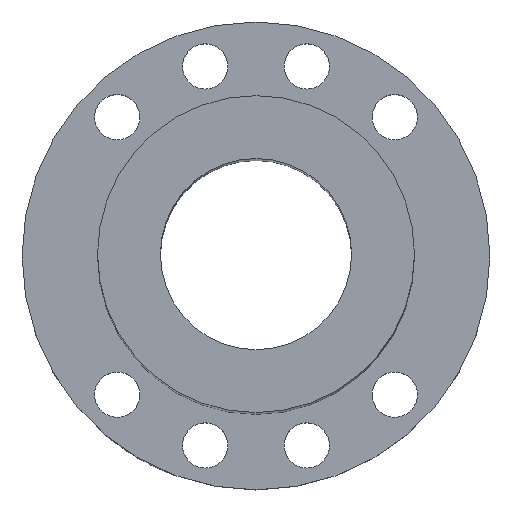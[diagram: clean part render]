
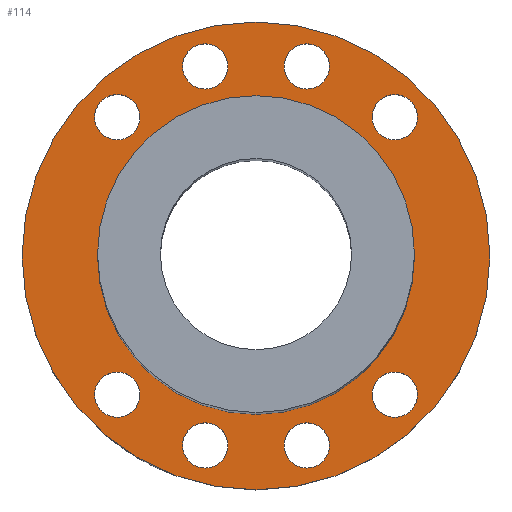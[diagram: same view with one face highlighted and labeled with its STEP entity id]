
A CAD part, top view. The second image highlights one B-rep face of the part: STEP entity #114.
In plain terms, the highlighted planar face has unit normal (0, 0, 1).
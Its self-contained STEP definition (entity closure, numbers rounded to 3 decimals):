
#99=PLANE('',#401);
#114=ADVANCED_FACE('',(#169,#170,#171,#172,#173,#174,#175,#176,#177,#178),
#99,.T.);
#169=FACE_BOUND('',#221,.T.);
#170=FACE_BOUND('',#222,.T.);
#171=FACE_BOUND('',#223,.T.);
#172=FACE_BOUND('',#224,.T.);
#173=FACE_BOUND('',#225,.T.);
#174=FACE_BOUND('',#226,.T.);
#175=FACE_BOUND('',#227,.T.);
#176=FACE_BOUND('',#228,.T.);
#177=FACE_BOUND('',#229,.T.);
#178=FACE_BOUND('',#230,.T.);
#221=EDGE_LOOP('',(#273));
#222=EDGE_LOOP('',(#274));
#223=EDGE_LOOP('',(#275));
#224=EDGE_LOOP('',(#276));
#225=EDGE_LOOP('',(#277));
#226=EDGE_LOOP('',(#278));
#227=EDGE_LOOP('',(#279));
#228=EDGE_LOOP('',(#280));
#229=EDGE_LOOP('',(#281));
#230=EDGE_LOOP('',(#282));
#273=ORIENTED_EDGE('',*,*,#316,.T.);
#274=ORIENTED_EDGE('',*,*,#337,.F.);
#275=ORIENTED_EDGE('',*,*,#336,.T.);
#276=ORIENTED_EDGE('',*,*,#335,.F.);
#277=ORIENTED_EDGE('',*,*,#318,.T.);
#278=ORIENTED_EDGE('',*,*,#334,.T.);
#279=ORIENTED_EDGE('',*,*,#333,.F.);
#280=ORIENTED_EDGE('',*,*,#332,.F.);
#281=ORIENTED_EDGE('',*,*,#331,.T.);
#282=ORIENTED_EDGE('',*,*,#338,.T.);
#290=VERTEX_POINT('',#495);
#292=VERTEX_POINT('',#557);
#305=VERTEX_POINT('',#644);
#306=VERTEX_POINT('',#647);
#307=VERTEX_POINT('',#650);
#308=VERTEX_POINT('',#653);
#309=VERTEX_POINT('',#656);
#310=VERTEX_POINT('',#659);
#311=VERTEX_POINT('',#662);
#312=VERTEX_POINT('',#665);
#316=EDGE_CURVE('',#290,#290,#342,.T.);
#318=EDGE_CURVE('',#292,#292,#343,.T.);
#331=EDGE_CURVE('',#305,#305,#355,.T.);
#332=EDGE_CURVE('',#306,#306,#356,.T.);
#333=EDGE_CURVE('',#307,#307,#357,.T.);
#334=EDGE_CURVE('',#308,#308,#358,.T.);
#335=EDGE_CURVE('',#309,#309,#359,.T.);
#336=EDGE_CURVE('',#310,#310,#360,.T.);
#337=EDGE_CURVE('',#311,#311,#361,.T.);
#338=EDGE_CURVE('',#312,#312,#362,.T.);
#342=CIRCLE('',#367,46.5);
#343=CIRCLE('',#369,31.5);
#355=CIRCLE('',#385,4.5);
#356=CIRCLE('',#387,4.5);
#357=CIRCLE('',#389,4.5);
#358=CIRCLE('',#391,4.5);
#359=CIRCLE('',#393,4.5);
#360=CIRCLE('',#395,4.5);
#361=CIRCLE('',#397,4.5);
#362=CIRCLE('',#399,4.5);
#367=AXIS2_PLACEMENT_3D('',#494,#411,#412);
#369=AXIS2_PLACEMENT_3D('',#556,#415,#416);
#385=AXIS2_PLACEMENT_3D('',#643,#447,#448);
#387=AXIS2_PLACEMENT_3D('',#646,#451,#452);
#389=AXIS2_PLACEMENT_3D('',#649,#455,#456);
#391=AXIS2_PLACEMENT_3D('',#652,#459,#460);
#393=AXIS2_PLACEMENT_3D('',#655,#463,#464);
#395=AXIS2_PLACEMENT_3D('',#658,#467,#468);
#397=AXIS2_PLACEMENT_3D('',#661,#471,#472);
#399=AXIS2_PLACEMENT_3D('',#664,#475,#476);
#401=AXIS2_PLACEMENT_3D('',#667,#479,#480);
#411=DIRECTION('',(0.,0.,1.));
#412=DIRECTION('',(1.,0.,0.));
#415=DIRECTION('',(0.,0.,-1.));
#416=DIRECTION('',(1.,0.,0.));
#447=DIRECTION('',(0.,0.,-1.));
#448=DIRECTION('',(-1.,0.,0.));
#451=DIRECTION('',(0.,0.,1.));
#452=DIRECTION('',(-1.,0.,0.));
#455=DIRECTION('',(0.,0.,1.));
#456=DIRECTION('',(1.,0.,0.));
#459=DIRECTION('',(0.,0.,-1.));
#460=DIRECTION('',(-1.,0.,0.));
#463=DIRECTION('',(0.,0.,1.));
#464=DIRECTION('',(-1.,0.,0.));
#467=DIRECTION('',(0.,0.,-1.));
#468=DIRECTION('',(1.,0.,0.));
#471=DIRECTION('',(0.,0.,1.));
#472=DIRECTION('',(1.,0.,0.));
#475=DIRECTION('',(0.,0.,-1.));
#476=DIRECTION('',(1.,0.,0.));
#479=DIRECTION('',(0.,0.,1.));
#480=DIRECTION('',(1.,0.,0.));
#494=CARTESIAN_POINT('',(0.,0.,14.));
#495=CARTESIAN_POINT('',(46.5,0.,14.));
#556=CARTESIAN_POINT('',(0.,0.,14.));
#557=CARTESIAN_POINT('',(31.5,0.,14.));
#643=CARTESIAN_POINT('',(27.577,27.577,14.));
#644=CARTESIAN_POINT('',(23.077,27.577,14.));
#646=CARTESIAN_POINT('',(27.577,-27.577,14.));
#647=CARTESIAN_POINT('',(23.077,-27.577,14.));
#649=CARTESIAN_POINT('',(-10.094,37.671,14.));
#650=CARTESIAN_POINT('',(-5.594,37.671,14.));
#652=CARTESIAN_POINT('',(10.094,37.671,14.));
#653=CARTESIAN_POINT('',(5.594,37.671,14.));
#655=CARTESIAN_POINT('',(10.094,-37.671,14.));
#656=CARTESIAN_POINT('',(5.594,-37.671,14.));
#658=CARTESIAN_POINT('',(-10.094,-37.671,14.));
#659=CARTESIAN_POINT('',(-5.594,-37.671,14.));
#661=CARTESIAN_POINT('',(-27.577,27.577,14.));
#662=CARTESIAN_POINT('',(-23.077,27.577,14.));
#664=CARTESIAN_POINT('',(-27.577,-27.577,14.));
#665=CARTESIAN_POINT('',(-23.077,-27.577,14.));
#667=CARTESIAN_POINT('',(-13.789,13.789,14.));
